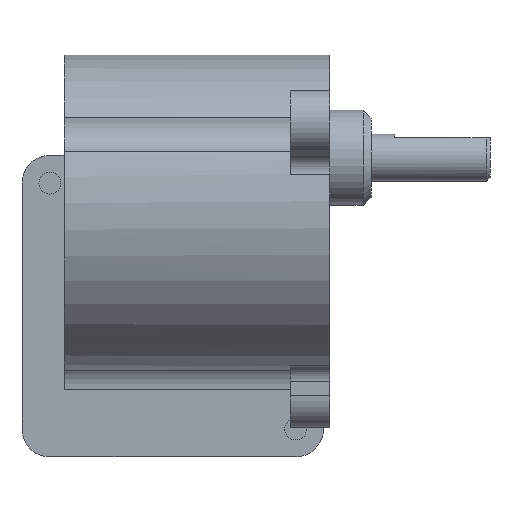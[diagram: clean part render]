
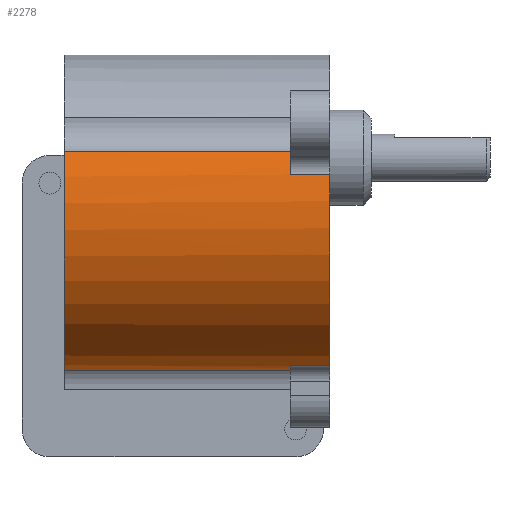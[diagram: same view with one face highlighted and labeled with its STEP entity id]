
A CAD part, left-side view. The second image highlights one B-rep face of the part: STEP entity #2278.
In plain terms, the highlighted cylindrical face has radius 20 mm (diameter 40 mm), a partial arc.
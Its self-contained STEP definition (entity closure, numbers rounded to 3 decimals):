
#170=CARTESIAN_POINT('',(-20.682,-9.3,10.247));
#171=VERTEX_POINT('',#170);
#179=CARTESIAN_POINT('',(-6.745,-9.3,-13.892));
#180=VERTEX_POINT('',#179);
#181=CARTESIAN_POINT('',(-1.291,-9.3,5.35));
#182=DIRECTION('',(0.0,-1.0,0.0));
#183=DIRECTION('',(1.0,0.0,0.0));
#184=AXIS2_PLACEMENT_3D('',#181,#182,#183);
#185=CIRCLE('',#184,20.0);
#186=EDGE_CURVE('',#171,#180,#185,.T.);
#1287=CARTESIAN_POINT('',(-6.745,-4.3,-13.892));
#1288=VERTEX_POINT('',#1287);
#1296=CARTESIAN_POINT('',(-3.753,-4.3,-14.498));
#1297=VERTEX_POINT('',#1296);
#1298=CARTESIAN_POINT('',(-1.291,-4.3,5.35));
#1299=DIRECTION('',(0.0,1.0,0.0));
#1300=DIRECTION('',(1.0,0.0,0.0));
#1301=AXIS2_PLACEMENT_3D('',#1298,#1299,#1300);
#1302=CIRCLE('',#1301,20.0);
#1303=EDGE_CURVE('',#1297,#1288,#1302,.T.);
#1331=CARTESIAN_POINT('',(-19.711,24.2,13.141));
#1332=VERTEX_POINT('',#1331);
#1364=CARTESIAN_POINT('',(-3.753,24.2,-14.498));
#1365=VERTEX_POINT('',#1364);
#1373=CARTESIAN_POINT('',(-1.291,24.2,5.35));
#1374=DIRECTION('',(0.0,-1.0,0.0));
#1375=DIRECTION('',(1.0,0.0,0.0));
#1376=AXIS2_PLACEMENT_3D('',#1373,#1374,#1375);
#1377=CIRCLE('',#1376,20.0);
#1378=EDGE_CURVE('',#1332,#1365,#1377,.T.);
#1388=CARTESIAN_POINT('',(-20.682,-4.3,10.247));
#1389=VERTEX_POINT('',#1388);
#1390=CARTESIAN_POINT('',(-19.711,-4.3,13.141));
#1391=VERTEX_POINT('',#1390);
#1392=CARTESIAN_POINT('',(-1.291,-4.3,5.35));
#1393=DIRECTION('',(0.0,1.0,0.0));
#1394=DIRECTION('',(1.0,0.0,0.0));
#1395=AXIS2_PLACEMENT_3D('',#1392,#1393,#1394);
#1396=CIRCLE('',#1395,20.0);
#1397=EDGE_CURVE('',#1389,#1391,#1396,.T.);
#1467=CARTESIAN_POINT('',(-3.753,24.2,-14.498));
#1468=DIRECTION('',(0.0,-1.0,0.0));
#1469=VECTOR('',#1468,28.5);
#1470=LINE('',#1467,#1469);
#1471=EDGE_CURVE('',#1365,#1297,#1470,.T.);
#1482=CARTESIAN_POINT('',(-19.711,-4.3,13.141));
#1483=DIRECTION('',(0.0,1.0,0.0));
#1484=VECTOR('',#1483,28.5);
#1485=LINE('',#1482,#1484);
#1486=EDGE_CURVE('',#1391,#1332,#1485,.T.);
#2249=CARTESIAN_POINT('',(-6.745,-9.3,-13.892));
#2250=DIRECTION('',(0.0,1.0,0.0));
#2251=VECTOR('',#2250,5.0);
#2252=LINE('',#2249,#2251);
#2253=EDGE_CURVE('',#180,#1288,#2252,.T.);
#2258=CARTESIAN_POINT('',(-1.291,-9.3,5.35));
#2259=DIRECTION('',(0.0,1.0,0.0));
#2260=DIRECTION('',(1.0,0.0,0.0));
#2261=AXIS2_PLACEMENT_3D('',#2258,#2259,#2260);
#2262=CYLINDRICAL_SURFACE('',#2261,20.0);
#2263=CARTESIAN_POINT('',(-20.682,-4.3,10.247));
#2264=DIRECTION('',(0.0,-1.0,0.0));
#2265=VECTOR('',#2264,5.0);
#2266=LINE('',#2263,#2265);
#2267=EDGE_CURVE('',#1389,#171,#2266,.T.);
#2268=ORIENTED_EDGE('',*,*,#2267,.F.);
#2269=ORIENTED_EDGE('',*,*,#1397,.T.);
#2270=ORIENTED_EDGE('',*,*,#1486,.T.);
#2271=ORIENTED_EDGE('',*,*,#1378,.T.);
#2272=ORIENTED_EDGE('',*,*,#1471,.T.);
#2273=ORIENTED_EDGE('',*,*,#1303,.T.);
#2274=ORIENTED_EDGE('',*,*,#2253,.F.);
#2275=ORIENTED_EDGE('',*,*,#186,.F.);
#2276=EDGE_LOOP('',(#2268,#2269,#2270,#2271,#2272,#2273,#2274,#2275));
#2277=FACE_OUTER_BOUND('',#2276,.T.);
#2278=ADVANCED_FACE('',(#2277),#2262,.T.);
